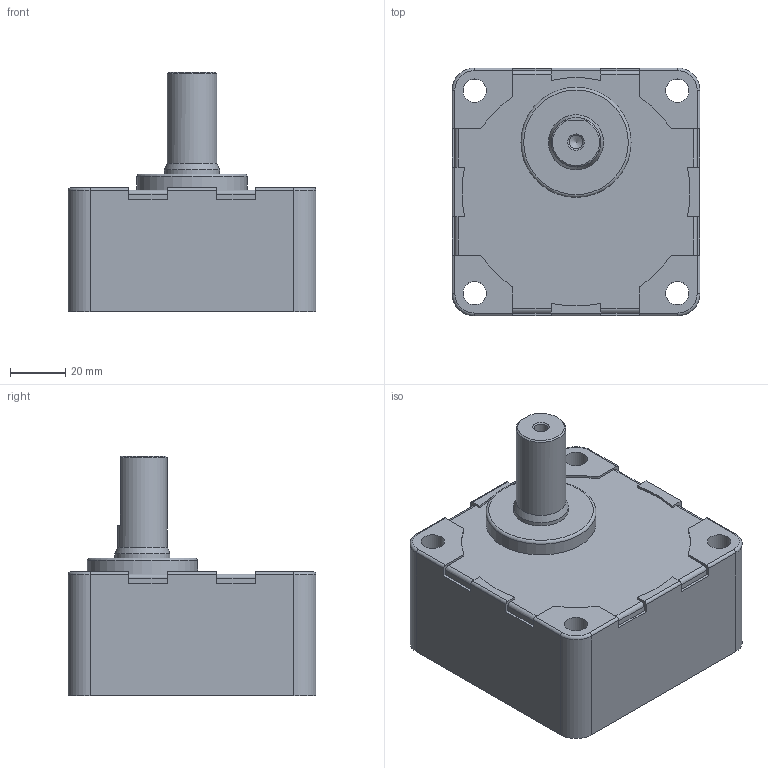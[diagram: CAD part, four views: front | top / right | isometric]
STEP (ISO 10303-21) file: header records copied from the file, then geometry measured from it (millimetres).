
FILE_DESCRIPTION(/* description */ (''),/* implementation_level */ '2;1');
FILE_NAME(/* name */ 'E:\도면작업\2016\0704) 미주향 SG 도면\3D GEAR HEAD\SG9DB5~20.stp',/* time_stamp */ '2016-07-22T14:03:51+09:00',/* author */ ('jy-jung'),/* organization */ (''),/* preprocessor_version */ 'ST-DEVELOPER v15.6',/* originating_system */ 'Autodesk Inventor 2015',/* authorisation */ '');
FILE_SCHEMA (('AUTOMOTIVE_DESIGN { 1 0 10303 214 3 1 1 }'));
Length unit declared in the file: millimetre
Products named in the file (1): SG9DB5~20
Bounding box: 90 x 90 x 87 mm (x, y, z)
Volume: 347749.2 mm3; surface area: 40067.6 mm2
Topology: 1 solids, 1 shells, 104 faces, 279 edges, 181 vertices
Faces by surface type: plane 52, cylinder 41, cone 6, torus 5
Full cylindrical faces by diameter (mm): 4.917 x1, 8.5 x4, 9 x1, 18 x1, 20 x1, 40 x1, 83 x1
Entity records: 3195 total; most frequent: DIRECTION 561, CARTESIAN_POINT 549, ORIENTED_EDGE 522, EDGE_CURVE 261, AXIS2_PLACEMENT_3D 197, VERTEX_POINT 179, LINE 167, VECTOR 167
